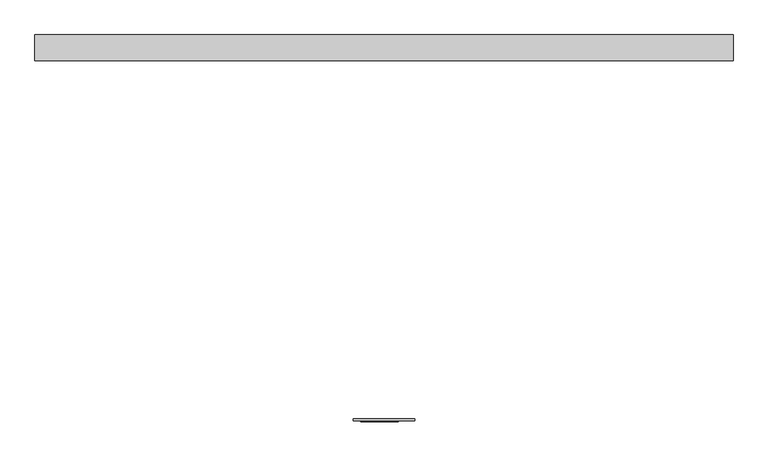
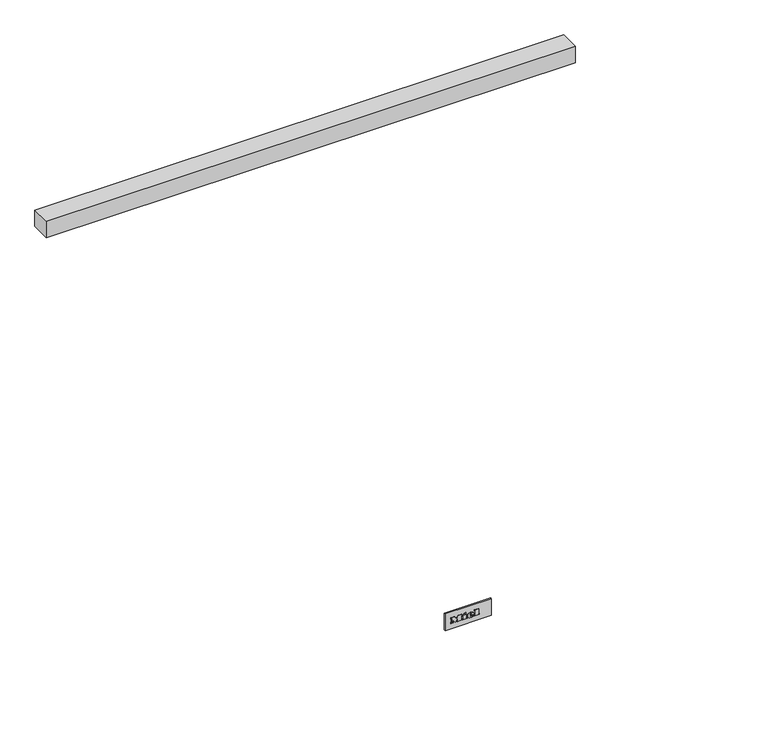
"""IFC4 building model written with IfcOpenShell, lengths in millimetres: proxy geometry, 11791680_USA_HR1954-3LP_EDST-CLS : 25195482_USA_11791680_HR1954-3LP_EDST-CLS."""

from ifc_helpers import new_model, si_unit, point, frame, frame_2d, origin, place, context, project, spatial, polyline, circle_curve, ellipse_curve, trimmed, segment, composite_curve, outline, extrude, source, transform, mapped, element, save
from ifc_brep_helpers import plane_surface, cylinder_surface, revolved_surface, extruded_surface, advanced_brep


def specialty_equipment_bac1f9ac(model_context):
    return source(origin(), model_context, "Body", "SolidModel", [
        advanced_brep(
        [(3.9955, -676.0, 148.1995), (3.9955, -676.0, 149.563), (13.027, -676.0, 149.563), (-2.687, -676.0, 149.563), (1.0255, -676.0, 145.0), (12.7975, -676.0, 148.1995), (8.7205, -676.0, 148.1995), (5.5075, -676.0, 146.6875), (3.9955, -676.0, 151.291), (3.9955, -676.0, 152.7625), (6.304, -676.0, 152.7625), (6.304, -676.0, 151.291), (3.9955, -675.0, 148.1995), (5.5075, -675.0, 146.6875), (8.7205, -675.0, 148.1995), (12.7975, -675.0, 148.1995), (1.0255, -675.0, 145.0), (-2.687, -675.0, 149.563), (13.027, -675.0, 149.563), (3.9955, -675.0, 149.563), (3.9955, -675.0, 151.291), (6.304, -675.0, 151.291), (6.304, -675.0, 152.7625), (3.9955, -675.0, 152.7625)],
        [
            (0, 1),
            (1, 2),
            (2, 3, ellipse_curve(frame((5.17, -676.0, 149.563), z_axis=(0.0, -1.0, 0.0), x_axis=(-1.0, 0.0, 0.0)), 7.857, 6.4935)),
            (3, 4, circle_curve(frame((2.5375736, -676.0, 150.022), z_axis=(0.0, -1.0, 0.0), x_axis=(0.0, 0.0, -1.0)), 5.2446974)),
            (4, 5, circle_curve(frame((5.0127142, -676.0, 153.586), z_axis=(0.0, -1.0, 0.0), x_axis=(0.0, 0.0, -1.0)), 9.46664)),
            (5, 6),
            (6, 7, circle_curve(frame((6.1674118, -676.0, 149.455), z_axis=(0.0, 1.0, 0.0), x_axis=(0.0, 0.0, -1.0)), 2.8450905)),
            (7, 0, circle_curve(frame((5.5075, -676.0, 148.1995), z_axis=(0.0, 1.0, 0.0), x_axis=(0.0, 0.0, -1.0)), 1.512)),
            (8, 9),
            (9, 10, circle_curve(frame((5.14975, -676.0, 152.7625), z_axis=(0.0, 1.0, 0.0), x_axis=(0.0, 0.0, -1.0)), 1.15425)),
            (10, 11),
            (11, 8),
            (12, 13, circle_curve(frame((5.5075, -675.0, 148.1995), z_axis=(0.0, -1.0, 0.0), x_axis=(0.0, 0.0, -1.0)), 1.512)),
            (13, 14, circle_curve(frame((6.1674118, -675.0, 149.455), z_axis=(0.0, -1.0, 0.0), x_axis=(0.0, 0.0, -1.0)), 2.8450905)),
            (14, 15),
            (15, 16, circle_curve(frame((5.0127142, -675.0, 153.586), z_axis=(0.0, 1.0, 0.0), x_axis=(0.0, 0.0, -1.0)), 9.46664)),
            (16, 17, circle_curve(frame((2.5375736, -675.0, 150.022), z_axis=(0.0, 1.0, 0.0), x_axis=(0.0, 0.0, -1.0)), 5.2446974)),
            (17, 18, ellipse_curve(frame((5.17, -675.0, 149.563), z_axis=(0.0, 1.0, 0.0), x_axis=(-1.0, 0.0, 0.0)), 7.857, 6.4935)),
            (18, 19),
            (19, 12),
            (20, 21),
            (21, 22),
            (22, 23, circle_curve(frame((5.14975, -675.0, 152.7625), z_axis=(0.0, -1.0, 0.0), x_axis=(0.0, 0.0, -1.0)), 1.15425)),
            (23, 20),
            (0, 12),
            (19, 1),
            (18, 2),
            (5, 15),
            (14, 6),
            (17, 3),
            (13, 7),
            (16, 4),
            (8, 20),
            (23, 9),
            (22, 10),
            (21, 11),
        ],
        [
            plane_surface(frame((3.9955, -676.0, 149.563), z_axis=(0.0, -1.0, 0.0), x_axis=(0.0, 0.0, 1.0))),
            plane_surface(frame((3.9955, -675.0, 149.563), z_axis=(0.0, 1.0, 0.0), x_axis=(0.0, 0.0, -1.0))),
            plane_surface(frame((3.9955, -676.0, 148.1995), z_axis=(1.0, 0.0, 0.0), x_axis=(0.0, 1.0, 0.0))),
            plane_surface(frame((3.9955, -676.0, 149.563), z_axis=(0.0, 0.0, -1.0), x_axis=(0.0, 1.0, 0.0))),
            plane_surface(frame((12.7975, -676.0, 148.1995), z_axis=(0.0, 0.0, 1.0), x_axis=(0.0, 1.0, 0.0))),
            extruded_surface(trimmed(ellipse_curve(frame((5.17, -674.0, 149.563), z_axis=(0.0, -1.0, 0.0), x_axis=(-1.0, 0.0, 0.0)), 7.857, 6.4935), [point((13.027, -674.0, 149.563))], [point((-2.687, -674.0, 149.563))], True, "CARTESIAN"), (0.0, -1.0, 0.0), 1.0),
            revolved_surface(polyline([(6.1674118, -675.0, 146.60990950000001), (6.1674118, -676.0, 146.60990950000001)]), (6.1674118, -675.0, 149.455), (0.0, 1.0, 0.0)),
            revolved_surface(polyline([(5.5075, -675.0, 146.6875), (5.5075, -676.0, 146.6875)]), (5.5075, -675.0, 148.1995), (0.0, 1.0, 0.0)),
            cylinder_surface(frame((2.5375736, -675.0, 150.022), z_axis=(0.0, -1.0, 0.0), x_axis=(0.0, 0.0, -1.0)), 5.2446974),
            cylinder_surface(frame((5.0127142, -675.0, 153.586), z_axis=(0.0, -1.0, 0.0), x_axis=(0.0, 0.0, -1.0)), 9.46664),
            plane_surface(frame((3.9955, -676.0, 151.291), z_axis=(1.0, 0.0, 0.0), x_axis=(0.0, 1.0, 0.0))),
            revolved_surface(polyline([(5.14975, -675.0, 151.60825), (5.14975, -676.0, 151.60825)]), (5.14975, -675.0, 152.7625), (0.0, 1.0, 0.0)),
            plane_surface(frame((6.304, -676.0, 152.7625), z_axis=(-1.0, 0.0, 0.0), x_axis=(0.0, 1.0, 0.0))),
            plane_surface(frame((6.304, -676.0, 151.291), z_axis=(0.0, 0.0, 1.0), x_axis=(0.0, 1.0, 0.0))),
        ],
        [
            (0, [[1, 2, 3, 4, 5, 6, 7, 8], [9, 10, 11, 12]]),
            (1, [[13, 14, 15, 16, 17, 18, 19, 20], [21, 22, 23, 24]]),
            (2, [[-1, 25, -20, 26]]),
            (3, [[-2, -26, -19, 27]]),
            (4, [[-6, 28, -15, 29]]),
            (5, [[-3, -27, -18, 30]]),
            (6, [[-7, -29, -14, 31]]),
            (7, [[-8, -31, -13, -25]]),
            (8, [[-4, -30, -17, 32]]),
            (9, [[-5, -32, -16, -28]]),
            (10, [[-9, 33, -24, 34]]),
            (11, [[-10, -34, -23, 35]]),
            (12, [[-11, -35, -22, 36]]),
            (13, [[-12, -36, -21, -33]]),
        ],
    ),
        extrude(outline(polyline([(157.7035, -10.76), (155.5165, -9.734), (157.6495, -5.1575), (159.8365, -6.17), (157.7035, -10.76)])), frame((0.0, -676.0, 0.0), z_axis=(0.0, 1.0, 0.0), x_axis=(0.0, 0.0, 1.0)), (0.0, 0.0, 1.0), 1.0),
        extrude(outline(polyline([(155.2195, -14.0945), (152.803, -14.0945), (152.803, -12.488), (147.268, -12.488), (147.268, -14.0945), (145.0, -14.0945), (145.0, -3.443), (147.268, -3.443), (147.268, -5.009), (155.2195, -5.009), (155.2195, -14.0945)])), frame((0.0, -676.0, 0.0), z_axis=(0.0, 1.0, 0.0), x_axis=(0.0, 0.0, 1.0)), (0.0, 0.0, 1.0), 1.0),
        extrude(outline(polyline([(156.2995, 13.783), (156.2995, 15.403), (147.268, 15.403), (147.268, 13.783), (145.0, 13.783), (145.0, 24.7315), (147.268, 24.7315), (147.268, 23.071), (158.5, 23.071), (158.5, 13.783), (156.2995, 13.783)])), frame((0.0, -676.0, 0.0), z_axis=(0.0, 1.0, 0.0), x_axis=(0.0, 0.0, 1.0)), (0.0, 0.0, 1.0), 1.0),
        extrude(outline(polyline([(156.2995, -41.0), (156.2995, -39.3665), (147.268, -39.3665), (147.268, -41.0), (145.0, -41.0), (145.0, -35.06), (147.268, -35.06), (147.268, -36.68), (152.9756247, -36.68), (145.0, -30.6455), (153.2527223, -24.584), (147.268, -24.584), (147.268, -26.2445), (145.0, -26.2445), (145.0, -15.4715), (147.268, -15.4715), (147.268, -17.186), (156.2995, -17.186), (156.2995, -15.4715), (158.5, -15.4715), (158.5, -23.693), (153.4375, -27.635), (158.5, -31.5905), (158.5, -41.0), (156.2995, -41.0)])), frame((0.0, -676.0, 0.0), z_axis=(0.0, 1.0, 0.0), x_axis=(0.0, 0.0, 1.0)), (0.0, 0.0, 1.0), 1.0),
        extrude(outline(polyline([(609.5, 0.0), (609.5, -45.0), (-609.5, -45.0), (-609.5, 0.0), (609.5, 0.0)])), frame((0.0, 0.0, 902.0), z_axis=(0.0, 0.0, 1.0), x_axis=(1.0, 0.0, 0.0)), (0.0, 0.0, 1.0), 40.0),
        extrude(outline(composite_curve([segment(polyline([(-671.0, 131.0), (-674.5, 131.0)]), True, "CONTINUOUS"), segment(trimmed(circle_curve(frame_2d((-465.0137328, 151.5)), 210.4869263), [point((-674.5, 131.0))], [point((-674.5, 172.0))], False, "CARTESIAN"), True, "CONTINUOUS"), segment(polyline([(-674.5, 172.0), (-671.0, 172.0), (-671.0, 131.0)]), True, "CONTINUOUS")], self_intersect=False)), frame((-53.5, 0.0, 0.0), z_axis=(1.0, 0.0, 0.0), x_axis=(0.0, 1.0, 0.0)), (0.0, 0.0, 1.0), 107.0),
    ])


if __name__ == "__main__":
    model = new_model("IFC4")
    model_context = context("Model", 3, world=origin())
    ifc_project = project(units=[si_unit("LENGTHUNIT", "METRE", prefix="MILLI")], contexts=[model_context])
    site = spatial("IfcSite", under=ifc_project)
    building = spatial("IfcBuilding", under=site)
    placement = place(None, origin())
    specialty_equipment_shape = specialty_equipment_bac1f9ac(model_context)
    element("IfcBuildingElementProxy", 1, Name="11791680_USA_HR1954-3LP_EDST-CLS : 25195482_USA_11791680_HR1954-3LP_EDST-CLS", ObjectType="11791680_USA_HR1954-3LP_EDST-CLS : 25195482_USA_11791680_HR1954-3LP_EDST-CLS", at=placement, inside=building, context=model_context, shape_type="MappedRepresentation", body=[
        mapped(specialty_equipment_shape, transform((0.0, 0.0, 0.0), x_axis=(1.0, 0.0, 0.0), y_axis=(0.0, 1.0, 0.0), z_axis=(0.0, 0.0, 1.0))),
    ])
    save(model, "model.ifc")
